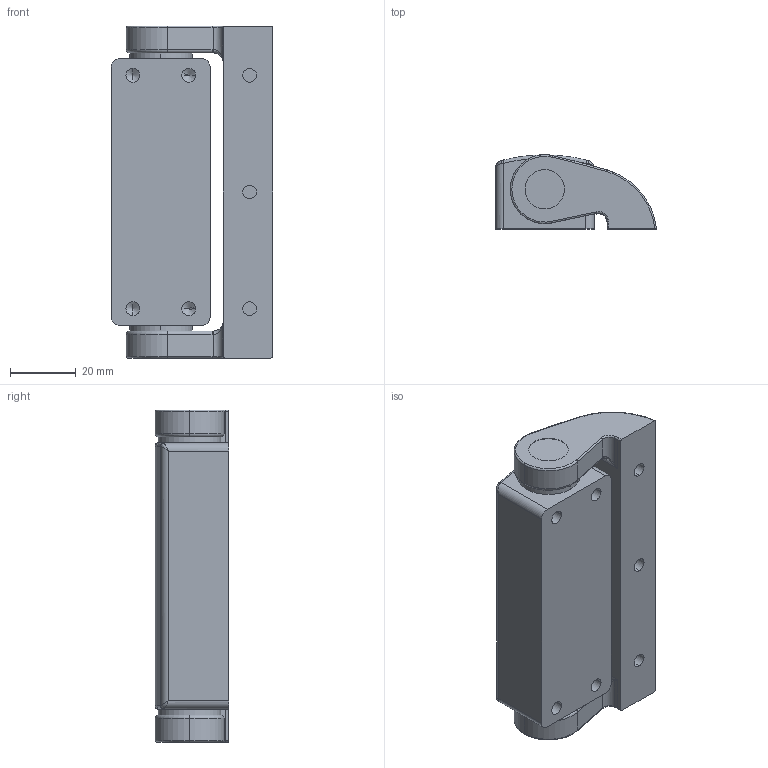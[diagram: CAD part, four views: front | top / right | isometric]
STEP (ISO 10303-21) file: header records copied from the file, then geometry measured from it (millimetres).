
FILE_DESCRIPTION (( 'STEP AP214' ), '1' );
FILE_NAME ('139.2-49-101.step', '2025-09-02T11:52:09', ( '' ), ( '' ), 'SwSTEP 2.0', 'SolidWorks 2022', '' );
FILE_SCHEMA (( 'AUTOMOTIVE_DESIGN' ));
Length unit declared in the file: millimetre
Products named in the file (3): 139.2-49-101; WB139.1_Montageflügel^WB139.2_neutral; WB139.1_Flügel^WB139.2_15
Assembly tree (2 placements, depth 2):
  139.2-49-101
    WB139.1_Flügel^WB139.2_15
    WB139.1_Montageflügel^WB139.2_neutral
Bounding box: 49 x 22.5 x 101 mm (x, y, z)
Volume: 80148.1 mm3; surface area: 19921.1 mm2
Topology: 2 solids, 2 shells, 121 faces, 286 edges, 164 vertices
Faces by surface type: cylinder 53, torus 20, plane 20, bspline 20, cone 8
Entity records: 4234 total; most frequent: CARTESIAN_POINT 1462, DIRECTION 591, ORIENTED_EDGE 544, EDGE_CURVE 272, AXIS2_PLACEMENT_3D 254, VERTEX_POINT 164, CIRCLE 148, EDGE_LOOP 134
